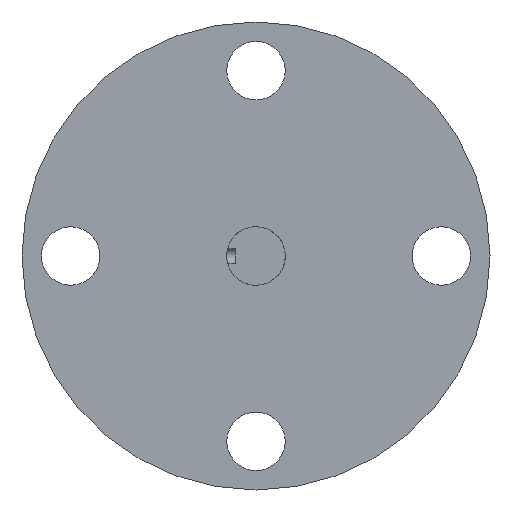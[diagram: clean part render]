
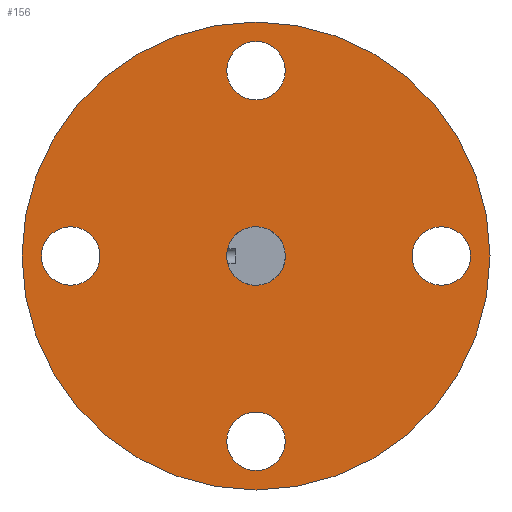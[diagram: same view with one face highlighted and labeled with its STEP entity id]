
A CAD part, left-side view. The second image highlights one B-rep face of the part: STEP entity #156.
In plain terms, the highlighted planar face has unit normal (-1, 0, 0).
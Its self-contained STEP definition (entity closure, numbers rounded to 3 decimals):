
#110=FACE_BOUND('',#199,.T.);
#111=FACE_BOUND('',#200,.T.);
#112=FACE_BOUND('',#201,.T.);
#113=FACE_BOUND('',#202,.T.);
#114=FACE_BOUND('',#203,.T.);
#115=FACE_BOUND('',#204,.T.);
#156=ADVANCED_FACE('',(#110,#111,#112,#113,#114,#115),#175,.F.);
#175=PLANE('',#446);
#199=EDGE_LOOP('',(#275));
#200=EDGE_LOOP('',(#276));
#201=EDGE_LOOP('',(#277));
#202=EDGE_LOOP('',(#278));
#203=EDGE_LOOP('',(#279));
#204=EDGE_LOOP('',(#280));
#234=CIRCLE('',#438,241.935);
#235=CIRCLE('',#441,241.935);
#236=CIRCLE('',#442,241.935);
#237=CIRCLE('',#443,241.935);
#238=CIRCLE('',#444,241.935);
#239=CIRCLE('',#445,1935.48);
#275=ORIENTED_EDGE('',*,*,#369,.F.);
#276=ORIENTED_EDGE('',*,*,#370,.F.);
#277=ORIENTED_EDGE('',*,*,#371,.F.);
#278=ORIENTED_EDGE('',*,*,#372,.F.);
#279=ORIENTED_EDGE('',*,*,#373,.F.);
#280=ORIENTED_EDGE('',*,*,#368,.F.);
#334=VERTEX_POINT('',#628);
#335=VERTEX_POINT('',#632);
#336=VERTEX_POINT('',#634);
#337=VERTEX_POINT('',#636);
#338=VERTEX_POINT('',#638);
#339=VERTEX_POINT('',#640);
#368=EDGE_CURVE('',#334,#334,#234,.T.);
#369=EDGE_CURVE('',#335,#335,#235,.T.);
#370=EDGE_CURVE('',#336,#336,#236,.T.);
#371=EDGE_CURVE('',#337,#337,#237,.T.);
#372=EDGE_CURVE('',#338,#338,#238,.T.);
#373=EDGE_CURVE('',#339,#339,#239,.T.);
#438=AXIS2_PLACEMENT_3D('',#627,#496,#497);
#441=AXIS2_PLACEMENT_3D('',#631,#502,#503);
#442=AXIS2_PLACEMENT_3D('',#633,#504,#505);
#443=AXIS2_PLACEMENT_3D('',#635,#506,#507);
#444=AXIS2_PLACEMENT_3D('',#637,#508,#509);
#445=AXIS2_PLACEMENT_3D('',#639,#510,#511);
#446=AXIS2_PLACEMENT_3D('',#641,#512,#513);
#496=DIRECTION('',(-1.,0.,0.));
#497=DIRECTION('',(0.,0.,1.));
#502=DIRECTION('',(-1.,0.,0.));
#503=DIRECTION('',(0.,0.,1.));
#504=DIRECTION('',(-1.,0.,0.));
#505=DIRECTION('',(0.,1.,0.));
#506=DIRECTION('',(-1.,0.,0.));
#507=DIRECTION('',(0.,0.,-1.));
#508=DIRECTION('',(-1.,0.,0.));
#509=DIRECTION('',(0.,-1.,0.));
#510=DIRECTION('',(1.,0.,0.));
#511=DIRECTION('',(0.,0.,1.));
#512=DIRECTION('',(1.,0.,0.));
#513=DIRECTION('',(0.,0.,-1.));
#627=CARTESIAN_POINT('',(785.876,0.,0.));
#628=CARTESIAN_POINT('',(785.876,0.,241.935));
#631=CARTESIAN_POINT('',(785.876,1532.255,0.));
#632=CARTESIAN_POINT('',(785.876,1532.255,241.935));
#633=CARTESIAN_POINT('',(785.876,0.,-1532.255));
#634=CARTESIAN_POINT('',(785.876,241.935,-1532.255));
#635=CARTESIAN_POINT('',(785.876,-1532.255,0.));
#636=CARTESIAN_POINT('',(785.876,-1532.255,-241.935));
#637=CARTESIAN_POINT('',(785.876,0.,1532.255));
#638=CARTESIAN_POINT('',(785.876,-241.935,1532.255));
#639=CARTESIAN_POINT('',(785.876,0.,0.));
#640=CARTESIAN_POINT('',(785.876,0.,1935.48));
#641=CARTESIAN_POINT('',(785.876,0.,0.));
